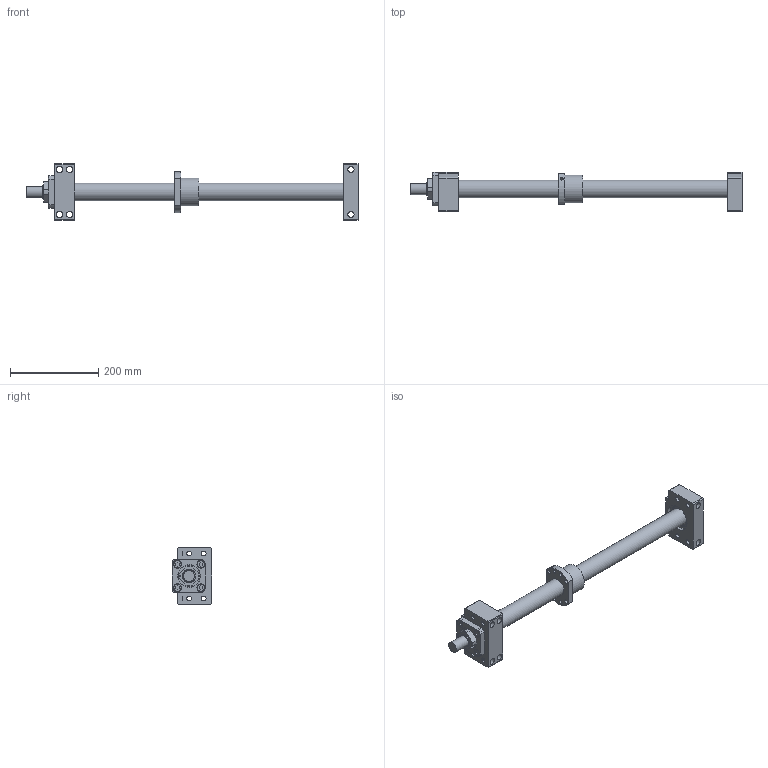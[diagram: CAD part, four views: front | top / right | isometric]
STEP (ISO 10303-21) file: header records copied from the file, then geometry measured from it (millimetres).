
FILE_DESCRIPTION(/* description */ ('','CAx-IF Rec.Pracs.---Representation and Presentation of Product Manufacturing Information (PMI)---4.0---2014-10-13'),/* implementation_level */ '2;1');
FILE_NAME(/* name */ 'F2RFU-4005-0750-BK30-BF30ASM v1.step',/* time_stamp */ '2024-12-17T10:43:04-05:00',/* author */ (''),/* organization */ (''),/* preprocessor_version */ 'ST-DEVELOPER v20',/* originating_system */ 'Autodesk Translation Framework v13.20.0.188',/* authorisation */ '');
FILE_SCHEMA (('AP242_MANAGED_MODEL_BASED_3D_ENGINEERING_MIM_LF { 1 0 10303 442 1 1 4 }'));
Length unit declared in the file: millimetre
Products named in the file (12): F2RFU-4005-0750-BK30-BF30ASM; 40xx_750; Screw40; BF30EndMach; BK30EndMach; BK30Yes; BK 30; BK 30collar; BF30; BF 30 Part1; BF 30 Part2; 40 x 5 Ball Nut
Assembly tree (11 placements, depth 3):
  F2RFU-4005-0750-BK30-BF30ASM
    40xx_750
      Screw40
      BF30EndMach
      BK30EndMach
    BK30Yes
      BK 30
      BK 30collar
    BF30
      BF 30 Part1
      BF 30 Part2
    40 x 5 Ball Nut
Bounding box: 753 x 89 x 128 mm (x, y, z)
Volume: 1704757.3 mm3; surface area: 268344.5 mm2
Topology: 8 solids, 9 shells, 245 faces, 621 edges, 421 vertices
Faces by surface type: plane 133, cylinder 88, cone 19, torus 5
Full cylindrical faces by diameter (mm): 6 x2, 6.8 x1, 9 x8, 11 x20, 14 x6, 16.5 x4, 17.5 x4, 20 x6, 25 x1, 28.376 x1, 28.6 x1, 29.85 x1, 30 x5, 36 x1, 37.3 x2, 38 x1, 40 x1, 40.2 x2, 40.386 x1, 47.3 x2, 50 x2, 50.1 x1, 51.7 x2, 62 x2, 63 x1
Entity records: 8919 total; most frequent: CARTESIAN_POINT 2525, ORIENTED_EDGE 1242, DIRECTION 1235, EDGE_CURVE 621, AXIS2_PLACEMENT_3D 456, VERTEX_POINT 421, EDGE_LOOP 352, LINE 323
